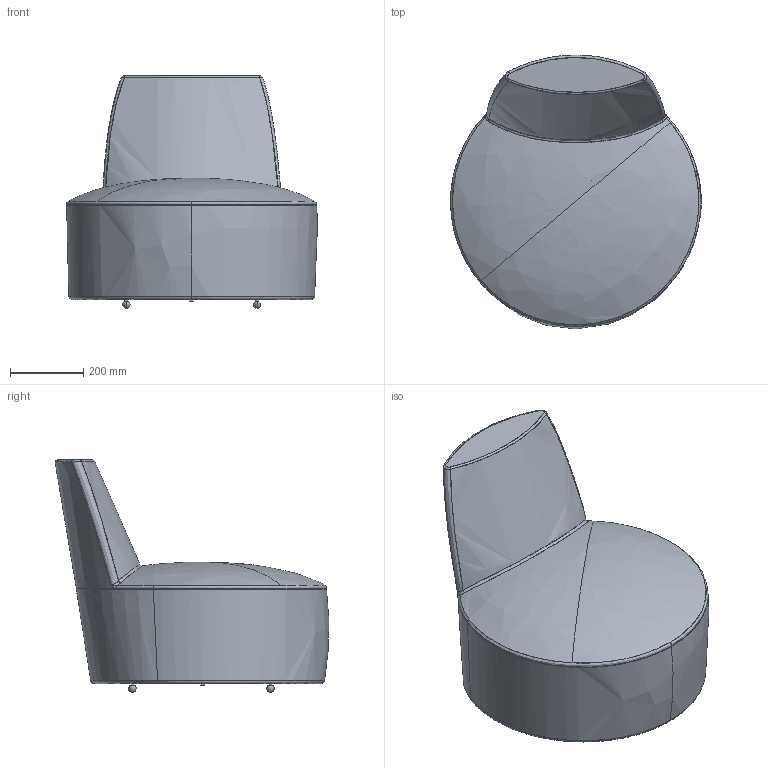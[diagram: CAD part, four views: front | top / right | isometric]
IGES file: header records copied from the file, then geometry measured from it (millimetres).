
Start section: SolidWorks IGES file using analytic representation for surfaces
Global section: file name: W:\design\LIEVORE\Baobab\IGS\BAOBAB.IGS; native system: SolidWorks 2010; preprocessor: SolidWorks 2010; author: PC20; date: 150225.185010; units: millimetre
Bounding box: 684.86 x 747.51 x 634.6 mm (x, y, z)
Surface area: 1582947.3 mm2 (no closed solid volume)
Topology: 0 solids, 0 shells, 47 faces, 1093 edges, 1208 vertices
Faces by surface type: bspline 27, revolution 20
